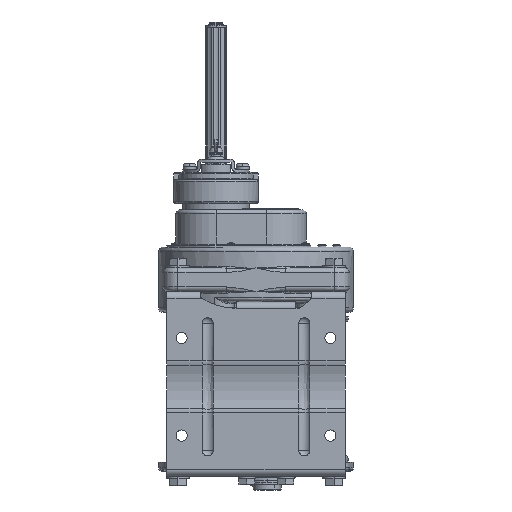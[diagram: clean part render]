
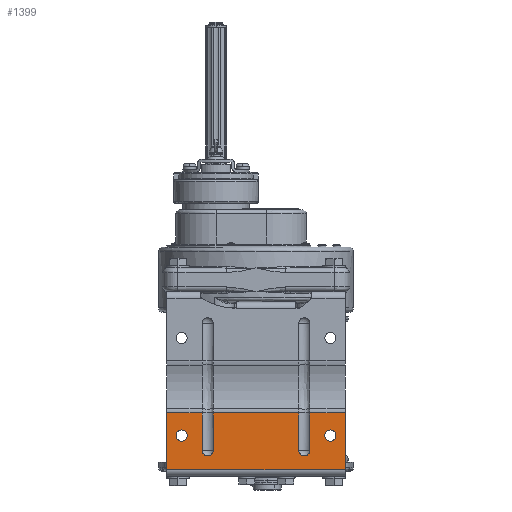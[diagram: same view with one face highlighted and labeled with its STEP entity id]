
A CAD part, front view. The second image highlights one B-rep face of the part: STEP entity #1399.
In plain terms, the highlighted planar face has unit normal (0, -1, 0).
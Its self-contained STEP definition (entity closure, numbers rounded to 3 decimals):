
#1399=ADVANCED_FACE('',(#16053,#16054,#16055),#16052,.T.);
#16052=PLANE('',#43870);
#16053=FACE_OUTER_BOUND('',#43871,.T.);
#16054=FACE_BOUND('',#43872,.T.);
#16055=FACE_BOUND('',#43873,.T.);
#43867=CARTESIAN_POINT('',(11.,-36.383,-223.2));
#43868=DIRECTION('',(0.,-1.,0.));
#43869=DIRECTION('',(0.,0.,1.));
#43870=AXIS2_PLACEMENT_3D('',#43867,#43868,#43869);
#43871=EDGE_LOOP('',(#62380,#62381,#62382,#62383,#62384,#62385,#62386,#62387,#62388,#62389,#62390,#62391));
#43872=EDGE_LOOP('',(#62392,#62393));
#43873=EDGE_LOOP('',(#62394,#62395));
#62380=ORIENTED_EDGE('',*,*,#75022,.T.);
#62381=ORIENTED_EDGE('',*,*,#74914,.F.);
#62382=ORIENTED_EDGE('',*,*,#74907,.T.);
#62383=ORIENTED_EDGE('',*,*,#74913,.T.);
#62384=ORIENTED_EDGE('',*,*,#75023,.T.);
#62385=ORIENTED_EDGE('',*,*,#75012,.F.);
#62386=ORIENTED_EDGE('',*,*,#75024,.F.);
#62387=ORIENTED_EDGE('',*,*,#75009,.T.);
#62388=ORIENTED_EDGE('',*,*,#75021,.T.);
#62389=ORIENTED_EDGE('',*,*,#75025,.F.);
#62390=ORIENTED_EDGE('',*,*,#74487,.F.);
#62391=ORIENTED_EDGE('',*,*,#75026,.T.);
#62392=ORIENTED_EDGE('',*,*,#75027,.F.);
#62393=ORIENTED_EDGE('',*,*,#75028,.F.);
#62394=ORIENTED_EDGE('',*,*,#75029,.F.);
#62395=ORIENTED_EDGE('',*,*,#75030,.F.);
#74487=EDGE_CURVE('',#101391,#101392,#101393,.T.);
#74907=EDGE_CURVE('',#104166,#104158,#104167,.T.);
#74913=EDGE_CURVE('',#104158,#104201,#104208,.T.);
#74914=EDGE_CURVE('',#104166,#104200,#104214,.T.);
#75009=EDGE_CURVE('',#104845,#104221,#104846,.T.);
#75012=EDGE_CURVE('',#104859,#104220,#104866,.T.);
#75021=EDGE_CURVE('',#104221,#104918,#104925,.T.);
#75022=EDGE_CURVE('',#104931,#104200,#104932,.T.);
#75023=EDGE_CURVE('',#104201,#104220,#104938,.T.);
#75024=EDGE_CURVE('',#104845,#104859,#104944,.T.);
#75025=EDGE_CURVE('',#101392,#104918,#104950,.T.);
#75026=EDGE_CURVE('',#101391,#104931,#104956,.T.);
#75027=EDGE_CURVE('',#104962,#104963,#104964,.T.);
#75028=EDGE_CURVE('',#104963,#104962,#104970,.T.);
#75029=EDGE_CURVE('',#104976,#104977,#104978,.T.);
#75030=EDGE_CURVE('',#104977,#104976,#104984,.T.);
#101391=VERTEX_POINT('',#145712);
#101392=VERTEX_POINT('',#145713);
#101393=LINE('',#145714,#145715);
#104158=VERTEX_POINT('',#147575);
#104166=VERTEX_POINT('',#147581);
#104167=CIRCLE('',#147585,6.);
#104200=VERTEX_POINT('',#147605);
#104201=VERTEX_POINT('',#147606);
#104208=LINE('',#147611,#147612);
#104214=LINE('',#147614,#147615);
#104220=VERTEX_POINT('',#147617);
#104221=VERTEX_POINT('',#147618);
#104845=VERTEX_POINT('',#148022);
#104846=LINE('',#148023,#148024);
#104859=VERTEX_POINT('',#148031);
#104866=LINE('',#148036,#148037);
#104918=VERTEX_POINT('',#148067);
#104925=LINE('',#148072,#148073);
#104931=VERTEX_POINT('',#148075);
#104932=LINE('',#148076,#148077);
#104938=LINE('',#148079,#148080);
#104944=CIRCLE('',#148085,6.);
#104950=LINE('',#148086,#148087);
#104956=LINE('',#148089,#148090);
#104962=VERTEX_POINT('',#148092);
#104963=VERTEX_POINT('',#148093);
#104964=CIRCLE('',#148097,6.);
#104970=CIRCLE('',#148101,6.);
#104976=VERTEX_POINT('',#148102);
#104977=VERTEX_POINT('',#148103);
#104978=CIRCLE('',#148107,6.);
#104984=CIRCLE('',#148111,6.);
#145712=CARTESIAN_POINT('',(1.,-36.383,-217.1));
#145713=CARTESIAN_POINT('',(-191.,-36.383,-217.1));
#145714=CARTESIAN_POINT('',(1.,-36.383,-217.1));
#145715=VECTOR('',#145716,192.);
#145716=DIRECTION('',(-1.,0.,0.));
#147575=CARTESIAN_POINT('',(-49.,-36.383,-196.302));
#147581=CARTESIAN_POINT('',(-37.,-36.383,-196.302));
#147582=CARTESIAN_POINT('',(-43.,-36.383,-196.302));
#147583=DIRECTION('',(0.,1.,0.));
#147584=DIRECTION('',(1.,0.,0.));
#147585=AXIS2_PLACEMENT_3D('',#147582,#147583,#147584);
#147605=CARTESIAN_POINT('',(-37.,-36.383,-156.096));
#147606=CARTESIAN_POINT('',(-49.,-36.383,-156.096));
#147611=CARTESIAN_POINT('',(-49.,-36.383,-196.302));
#147612=VECTOR('',#147613,40.206);
#147613=DIRECTION('',(0.,0.,1.));
#147614=CARTESIAN_POINT('',(-37.,-36.383,-196.302));
#147615=VECTOR('',#147616,40.206);
#147616=DIRECTION('',(0.,0.,1.));
#147617=CARTESIAN_POINT('',(-141.,-36.383,-156.096));
#147618=CARTESIAN_POINT('',(-153.,-36.383,-156.096));
#148022=CARTESIAN_POINT('',(-153.,-36.383,-196.302));
#148023=CARTESIAN_POINT('',(-153.,-36.383,-196.302));
#148024=VECTOR('',#148025,40.206);
#148025=DIRECTION('',(0.,0.,1.));
#148031=CARTESIAN_POINT('',(-141.,-36.383,-196.302));
#148036=CARTESIAN_POINT('',(-141.,-36.383,-196.302));
#148037=VECTOR('',#148038,40.206);
#148038=DIRECTION('',(0.,0.,1.));
#148067=CARTESIAN_POINT('',(-191.,-36.383,-156.096));
#148072=CARTESIAN_POINT('',(-153.,-36.383,-156.096));
#148073=VECTOR('',#148074,38.);
#148074=DIRECTION('',(-1.,0.,0.));
#148075=CARTESIAN_POINT('',(1.,-36.383,-156.096));
#148076=CARTESIAN_POINT('',(1.,-36.383,-156.096));
#148077=VECTOR('',#148078,38.);
#148078=DIRECTION('',(-1.,0.,0.));
#148079=CARTESIAN_POINT('',(-49.,-36.383,-156.096));
#148080=VECTOR('',#148081,92.);
#148081=DIRECTION('',(-1.,0.,0.));
#148082=CARTESIAN_POINT('',(-147.,-36.383,-196.302));
#148083=DIRECTION('',(0.,-1.,0.));
#148084=DIRECTION('',(1.,0.,0.));
#148085=AXIS2_PLACEMENT_3D('',#148082,#148083,#148084);
#148086=CARTESIAN_POINT('',(-191.,-36.383,-217.1));
#148087=VECTOR('',#148088,61.004);
#148088=DIRECTION('',(0.,0.,1.));
#148089=CARTESIAN_POINT('',(1.,-36.383,-217.1));
#148090=VECTOR('',#148091,61.004);
#148091=DIRECTION('',(0.,0.,1.));
#148092=CARTESIAN_POINT('',(-15.,-36.383,-186.4));
#148093=CARTESIAN_POINT('',(-15.,-36.383,-174.4));
#148094=CARTESIAN_POINT('',(-15.,-36.383,-180.4));
#148095=DIRECTION('',(0.,-1.,0.));
#148096=DIRECTION('',(0.,0.,1.));
#148097=AXIS2_PLACEMENT_3D('',#148094,#148095,#148096);
#148098=CARTESIAN_POINT('',(-15.,-36.383,-180.4));
#148099=DIRECTION('',(0.,-1.,0.));
#148100=DIRECTION('',(0.,0.,1.));
#148101=AXIS2_PLACEMENT_3D('',#148098,#148099,#148100);
#148102=CARTESIAN_POINT('',(-175.,-36.383,-186.4));
#148103=CARTESIAN_POINT('',(-175.,-36.383,-174.4));
#148104=CARTESIAN_POINT('',(-175.,-36.383,-180.4));
#148105=DIRECTION('',(0.,-1.,0.));
#148106=DIRECTION('',(0.,0.,1.));
#148107=AXIS2_PLACEMENT_3D('',#148104,#148105,#148106);
#148108=CARTESIAN_POINT('',(-175.,-36.383,-180.4));
#148109=DIRECTION('',(0.,-1.,0.));
#148110=DIRECTION('',(0.,0.,1.));
#148111=AXIS2_PLACEMENT_3D('',#148108,#148109,#148110);
